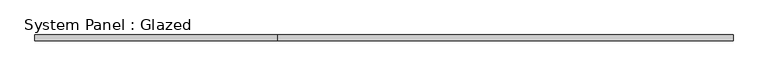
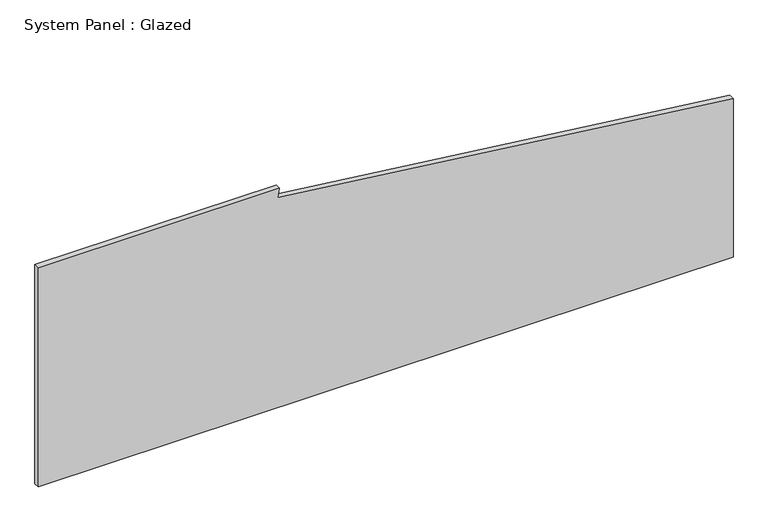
"""IFC4 building model written with IfcOpenShell, lengths in millimetres: plate geometry, System Panel : Glazed."""

from ifc_helpers import new_model, si_unit, frame, origin, place, context, project, spatial, polyline, outline, extrude, source, transform, mapped, element, save


def system_panel_glazed_20312a47(model_context):
    return source(origin(), model_context, "Body", "SweptSolid", [
        extrude(outline(polyline([(0.0, -1504.95), (0.0, 1504.95), (726.0392065, 1504.95), (963.0444367, -468.6930149), (1003.3, -460.0462155), (1003.3, -1504.95), (0.0, -1504.95)])), frame((0.0, 19.05, 0.0), z_axis=(0.0, 1.0, 0.0), x_axis=(0.0, 0.0, 1.0)), (0.0, 0.0, 1.0), 25.4),
    ])


if __name__ == "__main__":
    model = new_model("IFC4")
    model_context = context("Model", 3, world=origin())
    ifc_project = project(units=[si_unit("LENGTHUNIT", "METRE", prefix="MILLI")], contexts=[model_context])
    site = spatial("IfcSite", under=ifc_project)
    building = spatial("IfcBuilding", under=site)
    placement = place(None, origin())
    system_panel_glazed_shape = system_panel_glazed_20312a47(model_context)
    element("IfcPlate", 1, ObjectType="System Panel : Glazed", at=placement, inside=building, context=model_context, shape_type="MappedRepresentation", body=[
        mapped(system_panel_glazed_shape, transform((0.0, 0.0, 0.0), x_axis=(1.0, 0.0, 0.0), y_axis=(0.0, 1.0, 0.0), z_axis=(0.0, 0.0, 1.0))),
    ])
    save(model, "model.ifc")
